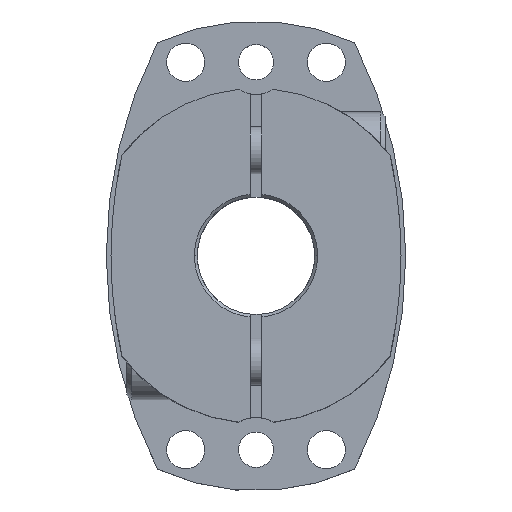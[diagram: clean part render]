
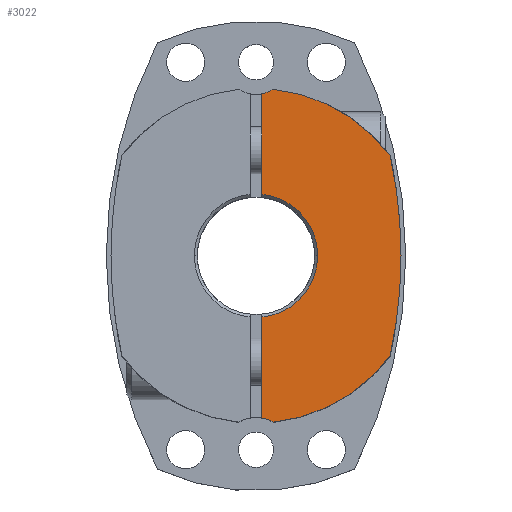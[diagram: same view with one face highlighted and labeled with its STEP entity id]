
A CAD part, top view. The second image highlights one B-rep face of the part: STEP entity #3022.
In plain terms, the highlighted planar face has unit normal (0, 0, 1).
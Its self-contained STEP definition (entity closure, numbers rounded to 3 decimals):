
#373=CARTESIAN_POINT('',(10.5,0.,25.5));
#374=VERTEX_POINT('',#373);
#381=CARTESIAN_POINT('',(1.,10.452,25.5));
#382=VERTEX_POINT('',#381);
#383=CARTESIAN_POINT('',(0.,0.,25.5));
#384=DIRECTION('',(0.0,0.0,1.0));
#385=DIRECTION('',(-1.0,0.0,0.0));
#386=AXIS2_PLACEMENT_3D('',#383,#384,#385);
#387=CIRCLE('',#386,10.5);
#388=EDGE_CURVE('',#374,#382,#387,.T.);
#537=CARTESIAN_POINT('',(24.7,0.,25.5));
#538=VERTEX_POINT('',#537);
#634=CARTESIAN_POINT('',(22.845,17.039,25.5));
#635=VERTEX_POINT('',#634);
#642=CARTESIAN_POINT('',(-54.5,0.,25.5));
#643=DIRECTION('',(0.0,0.0,-1.0));
#644=DIRECTION('',(1.0,0.0,0.0));
#645=AXIS2_PLACEMENT_3D('',#642,#643,#644);
#646=CIRCLE('',#645,79.2);
#647=EDGE_CURVE('',#635,#538,#646,.T.);
#2323=CARTESIAN_POINT('',(2.935,28.348,25.5));
#2324=VERTEX_POINT('',#2323);
#2331=CARTESIAN_POINT('',(0.,0.,25.5));
#2332=DIRECTION('',(0.0,0.0,-1.0));
#2333=DIRECTION('',(1.0,0.0,0.0));
#2334=AXIS2_PLACEMENT_3D('',#2331,#2332,#2333);
#2335=CIRCLE('',#2334,28.5);
#2336=EDGE_CURVE('',#2324,#635,#2335,.T.);
#2563=CARTESIAN_POINT('',(22.845,-17.039,25.5));
#2564=VERTEX_POINT('',#2563);
#2565=CARTESIAN_POINT('',(-54.5,0.,25.5));
#2566=DIRECTION('',(0.0,0.0,-1.0));
#2567=DIRECTION('',(1.0,0.0,0.0));
#2568=AXIS2_PLACEMENT_3D('',#2565,#2566,#2567);
#2569=CIRCLE('',#2568,79.2);
#2570=EDGE_CURVE('',#538,#2564,#2569,.T.);
#2687=CARTESIAN_POINT('',(1.,-27.592,25.5));
#2688=VERTEX_POINT('',#2687);
#2704=CARTESIAN_POINT('',(2.935,-28.348,25.5));
#2705=VERTEX_POINT('',#2704);
#2712=CARTESIAN_POINT('',(0.,-33.,25.5));
#2713=DIRECTION('',(0.0,0.0,-1.0));
#2714=DIRECTION('',(1.0,0.0,0.0));
#2715=AXIS2_PLACEMENT_3D('',#2712,#2713,#2714);
#2716=CIRCLE('',#2715,5.5);
#2717=EDGE_CURVE('',#2688,#2705,#2716,.T.);
#2896=CARTESIAN_POINT('',(1.,27.592,25.5));
#2897=VERTEX_POINT('',#2896);
#2904=CARTESIAN_POINT('',(0.,33.,25.5));
#2905=DIRECTION('',(0.0,0.0,-1.0));
#2906=DIRECTION('',(1.0,0.0,0.0));
#2907=AXIS2_PLACEMENT_3D('',#2904,#2905,#2906);
#2908=CIRCLE('',#2907,5.5);
#2909=EDGE_CURVE('',#2324,#2897,#2908,.T.);
#2944=CARTESIAN_POINT('',(1.,-10.452,25.5));
#2945=VERTEX_POINT('',#2944);
#2946=CARTESIAN_POINT('',(1.,-10.452,25.5));
#2947=DIRECTION('',(0.0,-1.0,0.0));
#2948=VECTOR('',#2947,17.139);
#2949=LINE('',#2946,#2948);
#2950=EDGE_CURVE('',#2945,#2688,#2949,.T.);
#2988=CARTESIAN_POINT('',(0.,0.,25.5));
#2989=DIRECTION('',(0.0,0.0,1.0));
#2990=DIRECTION('',(1.0,0.0,0.0));
#2991=AXIS2_PLACEMENT_3D('',#2988,#2989,#2990);
#2992=PLANE('',#2991);
#2993=ORIENTED_EDGE('',*,*,#2717,.T.);
#2994=CARTESIAN_POINT('',(0.,0.,25.5));
#2995=DIRECTION('',(0.0,0.0,-1.0));
#2996=DIRECTION('',(1.0,0.0,0.0));
#2997=AXIS2_PLACEMENT_3D('',#2994,#2995,#2996);
#2998=CIRCLE('',#2997,28.5);
#2999=EDGE_CURVE('',#2564,#2705,#2998,.T.);
#3000=ORIENTED_EDGE('',*,*,#2999,.F.);
#3001=ORIENTED_EDGE('',*,*,#2570,.F.);
#3002=ORIENTED_EDGE('',*,*,#647,.F.);
#3003=ORIENTED_EDGE('',*,*,#2336,.F.);
#3004=ORIENTED_EDGE('',*,*,#2909,.T.);
#3005=CARTESIAN_POINT('',(1.,27.592,25.5));
#3006=DIRECTION('',(0.0,-1.0,0.0));
#3007=VECTOR('',#3006,17.139);
#3008=LINE('',#3005,#3007);
#3009=EDGE_CURVE('',#2897,#382,#3008,.T.);
#3010=ORIENTED_EDGE('',*,*,#3009,.T.);
#3011=ORIENTED_EDGE('',*,*,#388,.F.);
#3012=CARTESIAN_POINT('',(0.,0.,25.5));
#3013=DIRECTION('',(0.0,0.0,1.0));
#3014=DIRECTION('',(-1.0,0.0,0.0));
#3015=AXIS2_PLACEMENT_3D('',#3012,#3013,#3014);
#3016=CIRCLE('',#3015,10.5);
#3017=EDGE_CURVE('',#2945,#374,#3016,.T.);
#3018=ORIENTED_EDGE('',*,*,#3017,.F.);
#3019=ORIENTED_EDGE('',*,*,#2950,.T.);
#3020=EDGE_LOOP('',(#2993,#3000,#3001,#3002,#3003,#3004,#3010,#3011,#3018,#3019));
#3021=FACE_OUTER_BOUND('',#3020,.T.);
#3022=ADVANCED_FACE('',(#3021),#2992,.T.);
